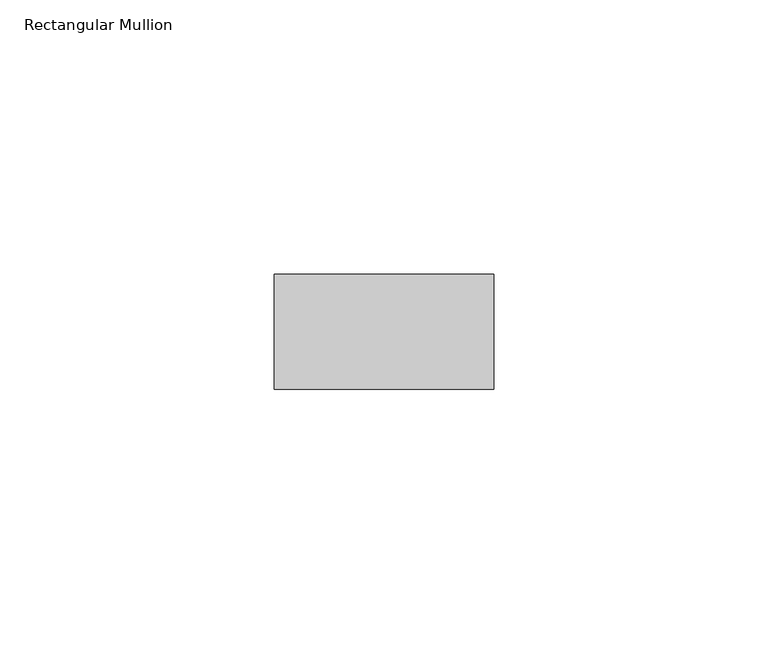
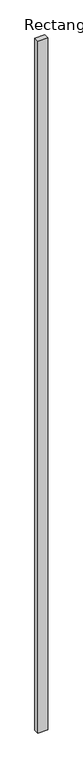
"""IFC4 building model written with IfcOpenShell, lengths in millimetres: member geometry, Rectangular Mullion : RSen_21_CWM_support profile - 40x21 - right_gen_duco projects."""

from ifc_helpers import new_model, si_unit, frame, origin, place, context, project, spatial, polyline, outline, extrude, source, transform, mapped, element, save


def rectangular_mullion_d5966d96(model_context):
    return source(origin(), model_context, "Body", "SweptSolid", [
        extrude(outline(polyline([(-90.0, 1.0), (-50.0, 1.0), (-50.0, -20.0), (-90.0, -20.0), (-90.0, 1.0)])), frame((0.0, 0.0, -3000.0), z_axis=(0.0, 0.0, 1.0), x_axis=(1.0, 0.0, 0.0)), (0.0, 0.0, 1.0), 3000.0),
    ])


if __name__ == "__main__":
    model = new_model("IFC4")
    model_context = context("Model", 3, world=origin())
    ifc_project = project(units=[si_unit("LENGTHUNIT", "METRE", prefix="MILLI")], contexts=[model_context])
    site = spatial("IfcSite", under=ifc_project)
    building = spatial("IfcBuilding", under=site)
    placement = place(None, origin())
    rectangular_mullion_shape = rectangular_mullion_d5966d96(model_context)
    element("IfcMember", 1, ObjectType="Rectangular Mullion : RSen_21_CWM_support profile - 40x21 - right_gen_duco projects", at=placement, inside=building, context=model_context, shape_type="MappedRepresentation", body=[
        mapped(rectangular_mullion_shape, transform((0.0, 0.0, 0.0), x_axis=(1.0, 0.0, 0.0), y_axis=(0.0, 1.0, 0.0), z_axis=(0.0, 0.0, 1.0))),
    ])
    save(model, "model.ifc")
